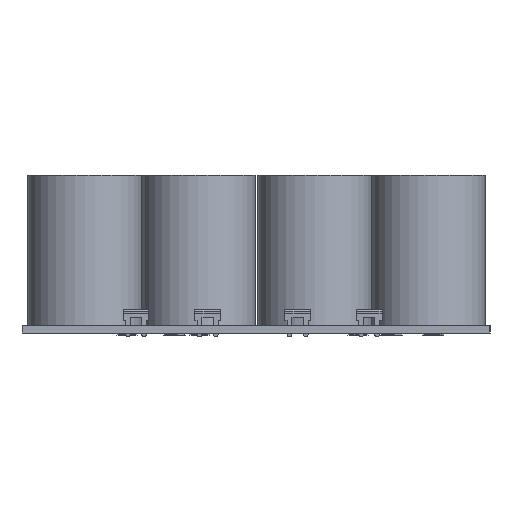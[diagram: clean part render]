
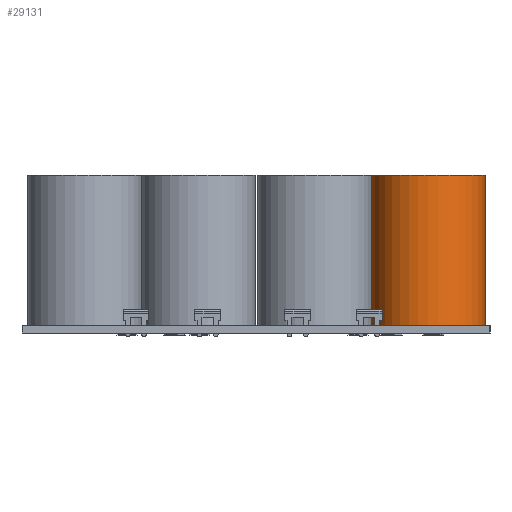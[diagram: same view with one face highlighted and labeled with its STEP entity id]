
A CAD part, left-side view. The second image highlights one B-rep face of the part: STEP entity #29131.
In plain terms, the highlighted cylindrical face has radius 17.65 mm (diameter 35.3 mm), a full revolution.
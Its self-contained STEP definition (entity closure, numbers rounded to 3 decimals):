
#29131 = ADVANCED_FACE('',(#29132),#29145,.T.);
#29132 = FACE_BOUND('',#29133,.T.);
#29133 = EDGE_LOOP('',(#29134,#29194,#29217,#29270));
#29134 = ORIENTED_EDGE('',*,*,#29135,.T.);
#29135 = EDGE_CURVE('',#29136,#29136,#29138,.T.);
#29136 = VERTEX_POINT('',#29137);
#29137 = CARTESIAN_POINT('',(17.65,0.,0.));
#29138 = SURFACE_CURVE('',#29139,(#29144,#29178),.PCURVE_S1.);
#29139 = CIRCLE('',#29140,17.65);
#29140 = AXIS2_PLACEMENT_3D('',#29141,#29142,#29143);
#29141 = CARTESIAN_POINT('',(0.,0.,0.));
#29142 = DIRECTION('',(0.,0.,1.));
#29143 = DIRECTION('',(1.,0.,0.));
#29144 = PCURVE('',#29145,#29150);
#29145 = CYLINDRICAL_SURFACE('',#29146,17.65);
#29146 = AXIS2_PLACEMENT_3D('',#29147,#29148,#29149);
#29147 = CARTESIAN_POINT('',(0.,0.,0.));
#29148 = DIRECTION('',(0.,0.,-1.));
#29149 = DIRECTION('',(1.,0.,0.));
#29150 = DEFINITIONAL_REPRESENTATION('',(#29151),#29177);
#29151 = B_SPLINE_CURVE_WITH_KNOTS('',3,(#29152,#29153,#29154,#29155,
    #29156,#29157,#29158,#29159,#29160,#29161,#29162,#29163,#29164,
    #29165,#29166,#29167,#29168,#29169,#29170,#29171,#29172,#29173,
    #29174,#29175,#29176),.UNSPECIFIED.,.F.,.F.,(4,1,1,1,1,1,1,1,1,1,1,1
    ,1,1,1,1,1,1,1,1,1,1,4),(0.,0.286,0.571,
    0.857,1.142,1.428,1.714,
    1.999,2.285,2.57,2.856,
    3.142,3.427,3.713,3.998,
    4.284,4.57,4.855,5.141,
    5.426,5.712,5.998,6.283),
  .QUASI_UNIFORM_KNOTS.);
#29152 = CARTESIAN_POINT('',(6.283,0.));
#29153 = CARTESIAN_POINT('',(6.188,0.));
#29154 = CARTESIAN_POINT('',(5.998,0.));
#29155 = CARTESIAN_POINT('',(5.712,0.));
#29156 = CARTESIAN_POINT('',(5.426,0.));
#29157 = CARTESIAN_POINT('',(5.141,0.));
#29158 = CARTESIAN_POINT('',(4.855,0.));
#29159 = CARTESIAN_POINT('',(4.57,0.));
#29160 = CARTESIAN_POINT('',(4.284,0.));
#29161 = CARTESIAN_POINT('',(3.998,0.));
#29162 = CARTESIAN_POINT('',(3.713,0.));
#29163 = CARTESIAN_POINT('',(3.427,0.));
#29164 = CARTESIAN_POINT('',(3.142,0.));
#29165 = CARTESIAN_POINT('',(2.856,0.));
#29166 = CARTESIAN_POINT('',(2.57,0.));
#29167 = CARTESIAN_POINT('',(2.285,0.));
#29168 = CARTESIAN_POINT('',(1.999,0.));
#29169 = CARTESIAN_POINT('',(1.714,0.));
#29170 = CARTESIAN_POINT('',(1.428,0.));
#29171 = CARTESIAN_POINT('',(1.142,0.));
#29172 = CARTESIAN_POINT('',(0.857,0.));
#29173 = CARTESIAN_POINT('',(0.571,0.));
#29174 = CARTESIAN_POINT('',(0.286,0.));
#29175 = CARTESIAN_POINT('',(0.095,0.));
#29176 = CARTESIAN_POINT('',(0.,0.));
#29177 = ( GEOMETRIC_REPRESENTATION_CONTEXT(2) 
PARAMETRIC_REPRESENTATION_CONTEXT() REPRESENTATION_CONTEXT('2D SPACE',''
  ) );
#29178 = PCURVE('',#29179,#29184);
#29179 = PLANE('',#29180);
#29180 = AXIS2_PLACEMENT_3D('',#29181,#29182,#29183);
#29181 = CARTESIAN_POINT('',(17.65,0.,0.));
#29182 = DIRECTION('',(0.,0.,-1.));
#29183 = DIRECTION('',(-1.,0.,0.));
#29184 = DEFINITIONAL_REPRESENTATION('',(#29185),#29193);
#29185 = ( BOUNDED_CURVE() B_SPLINE_CURVE(2,(#29186,#29187,#29188,#29189
    ,#29190,#29191,#29192),.UNSPECIFIED.,.F.,.F.) 
B_SPLINE_CURVE_WITH_KNOTS((1,2,2,2,2,1),(-2.094,0.,
    2.094,4.189,6.283,8.378),
.UNSPECIFIED.) CURVE() GEOMETRIC_REPRESENTATION_ITEM() 
RATIONAL_B_SPLINE_CURVE((1.,0.5,1.,0.5,1.,0.5,1.)) REPRESENTATION_ITEM(
  '') );
#29186 = CARTESIAN_POINT('',(0.,0.));
#29187 = CARTESIAN_POINT('',(0.,30.571));
#29188 = CARTESIAN_POINT('',(26.475,15.285));
#29189 = CARTESIAN_POINT('',(52.95,0.));
#29190 = CARTESIAN_POINT('',(26.475,-15.285));
#29191 = CARTESIAN_POINT('',(0.,-30.571));
#29192 = CARTESIAN_POINT('',(0.,0.));
#29193 = ( GEOMETRIC_REPRESENTATION_CONTEXT(2) 
PARAMETRIC_REPRESENTATION_CONTEXT() REPRESENTATION_CONTEXT('2D SPACE',''
  ) );
#29194 = ORIENTED_EDGE('',*,*,#29195,.T.);
#29195 = EDGE_CURVE('',#29136,#29196,#29198,.T.);
#29196 = VERTEX_POINT('',#29197);
#29197 = CARTESIAN_POINT('',(17.65,0.,46.7));
#29198 = SEAM_CURVE('',#29199,(#29203,#29210),.PCURVE_S1.);
#29199 = LINE('',#29200,#29201);
#29200 = CARTESIAN_POINT('',(17.65,0.,0.));
#29201 = VECTOR('',#29202,1.);
#29202 = DIRECTION('',(0.,0.,1.));
#29203 = PCURVE('',#29145,#29204);
#29204 = DEFINITIONAL_REPRESENTATION('',(#29205),#29209);
#29205 = LINE('',#29206,#29207);
#29206 = CARTESIAN_POINT('',(0.,0.));
#29207 = VECTOR('',#29208,1.);
#29208 = DIRECTION('',(0.,-1.));
#29209 = ( GEOMETRIC_REPRESENTATION_CONTEXT(2) 
PARAMETRIC_REPRESENTATION_CONTEXT() REPRESENTATION_CONTEXT('2D SPACE',''
  ) );
#29210 = PCURVE('',#29145,#29211);
#29211 = DEFINITIONAL_REPRESENTATION('',(#29212),#29216);
#29212 = LINE('',#29213,#29214);
#29213 = CARTESIAN_POINT('',(6.283,0.));
#29214 = VECTOR('',#29215,1.);
#29215 = DIRECTION('',(0.,-1.));
#29216 = ( GEOMETRIC_REPRESENTATION_CONTEXT(2) 
PARAMETRIC_REPRESENTATION_CONTEXT() REPRESENTATION_CONTEXT('2D SPACE',''
  ) );
#29217 = ORIENTED_EDGE('',*,*,#29218,.F.);
#29218 = EDGE_CURVE('',#29196,#29196,#29219,.T.);
#29219 = SURFACE_CURVE('',#29220,(#29225,#29254),.PCURVE_S1.);
#29220 = CIRCLE('',#29221,17.65);
#29221 = AXIS2_PLACEMENT_3D('',#29222,#29223,#29224);
#29222 = CARTESIAN_POINT('',(0.,0.,46.7));
#29223 = DIRECTION('',(0.,0.,1.));
#29224 = DIRECTION('',(1.,0.,0.));
#29225 = PCURVE('',#29145,#29226);
#29226 = DEFINITIONAL_REPRESENTATION('',(#29227),#29253);
#29227 = B_SPLINE_CURVE_WITH_KNOTS('',3,(#29228,#29229,#29230,#29231,
    #29232,#29233,#29234,#29235,#29236,#29237,#29238,#29239,#29240,
    #29241,#29242,#29243,#29244,#29245,#29246,#29247,#29248,#29249,
    #29250,#29251,#29252),.UNSPECIFIED.,.F.,.F.,(4,1,1,1,1,1,1,1,1,1,1,1
    ,1,1,1,1,1,1,1,1,1,1,4),(0.,0.286,0.571,
    0.857,1.142,1.428,1.714,
    1.999,2.285,2.57,2.856,
    3.142,3.427,3.713,3.998,
    4.284,4.57,4.855,5.141,
    5.426,5.712,5.998,6.283),
  .QUASI_UNIFORM_KNOTS.);
#29228 = CARTESIAN_POINT('',(6.283,-46.7));
#29229 = CARTESIAN_POINT('',(6.188,-46.7));
#29230 = CARTESIAN_POINT('',(5.998,-46.7));
#29231 = CARTESIAN_POINT('',(5.712,-46.7));
#29232 = CARTESIAN_POINT('',(5.426,-46.7));
#29233 = CARTESIAN_POINT('',(5.141,-46.7));
#29234 = CARTESIAN_POINT('',(4.855,-46.7));
#29235 = CARTESIAN_POINT('',(4.57,-46.7));
#29236 = CARTESIAN_POINT('',(4.284,-46.7));
#29237 = CARTESIAN_POINT('',(3.998,-46.7));
#29238 = CARTESIAN_POINT('',(3.713,-46.7));
#29239 = CARTESIAN_POINT('',(3.427,-46.7));
#29240 = CARTESIAN_POINT('',(3.142,-46.7));
#29241 = CARTESIAN_POINT('',(2.856,-46.7));
#29242 = CARTESIAN_POINT('',(2.57,-46.7));
#29243 = CARTESIAN_POINT('',(2.285,-46.7));
#29244 = CARTESIAN_POINT('',(1.999,-46.7));
#29245 = CARTESIAN_POINT('',(1.714,-46.7));
#29246 = CARTESIAN_POINT('',(1.428,-46.7));
#29247 = CARTESIAN_POINT('',(1.142,-46.7));
#29248 = CARTESIAN_POINT('',(0.857,-46.7));
#29249 = CARTESIAN_POINT('',(0.571,-46.7));
#29250 = CARTESIAN_POINT('',(0.286,-46.7));
#29251 = CARTESIAN_POINT('',(0.095,-46.7));
#29252 = CARTESIAN_POINT('',(0.,-46.7));
#29253 = ( GEOMETRIC_REPRESENTATION_CONTEXT(2) 
PARAMETRIC_REPRESENTATION_CONTEXT() REPRESENTATION_CONTEXT('2D SPACE',''
  ) );
#29254 = PCURVE('',#29255,#29260);
#29255 = PLANE('',#29256);
#29256 = AXIS2_PLACEMENT_3D('',#29257,#29258,#29259);
#29257 = CARTESIAN_POINT('',(17.65,0.,46.7));
#29258 = DIRECTION('',(0.,0.,-1.));
#29259 = DIRECTION('',(-1.,0.,0.));
#29260 = DEFINITIONAL_REPRESENTATION('',(#29261),#29269);
#29261 = ( BOUNDED_CURVE() B_SPLINE_CURVE(2,(#29262,#29263,#29264,#29265
    ,#29266,#29267,#29268),.UNSPECIFIED.,.F.,.F.) 
B_SPLINE_CURVE_WITH_KNOTS((1,2,2,2,2,1),(-2.094,0.,
    2.094,4.189,6.283,8.378),
.UNSPECIFIED.) CURVE() GEOMETRIC_REPRESENTATION_ITEM() 
RATIONAL_B_SPLINE_CURVE((1.,0.5,1.,0.5,1.,0.5,1.)) REPRESENTATION_ITEM(
  '') );
#29262 = CARTESIAN_POINT('',(0.,0.));
#29263 = CARTESIAN_POINT('',(0.,30.571));
#29264 = CARTESIAN_POINT('',(26.475,15.285));
#29265 = CARTESIAN_POINT('',(52.95,0.));
#29266 = CARTESIAN_POINT('',(26.475,-15.285));
#29267 = CARTESIAN_POINT('',(0.,-30.571));
#29268 = CARTESIAN_POINT('',(0.,0.));
#29269 = ( GEOMETRIC_REPRESENTATION_CONTEXT(2) 
PARAMETRIC_REPRESENTATION_CONTEXT() REPRESENTATION_CONTEXT('2D SPACE',''
  ) );
#29270 = ORIENTED_EDGE('',*,*,#29195,.F.);
